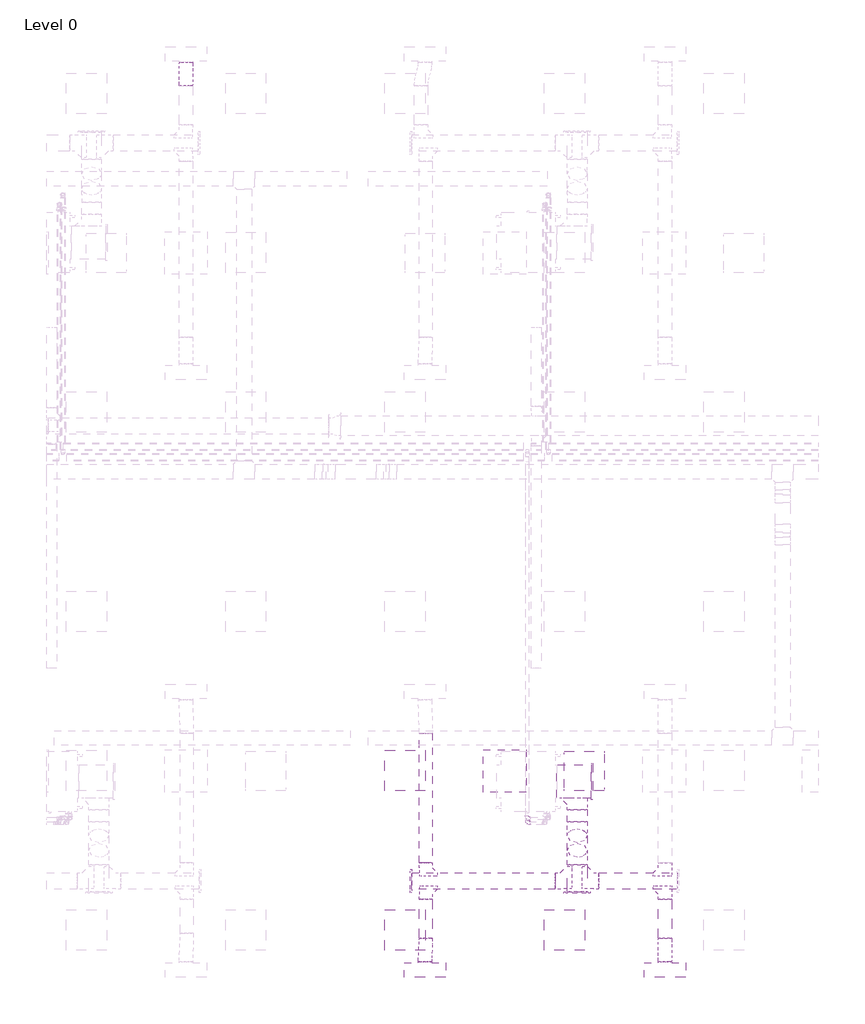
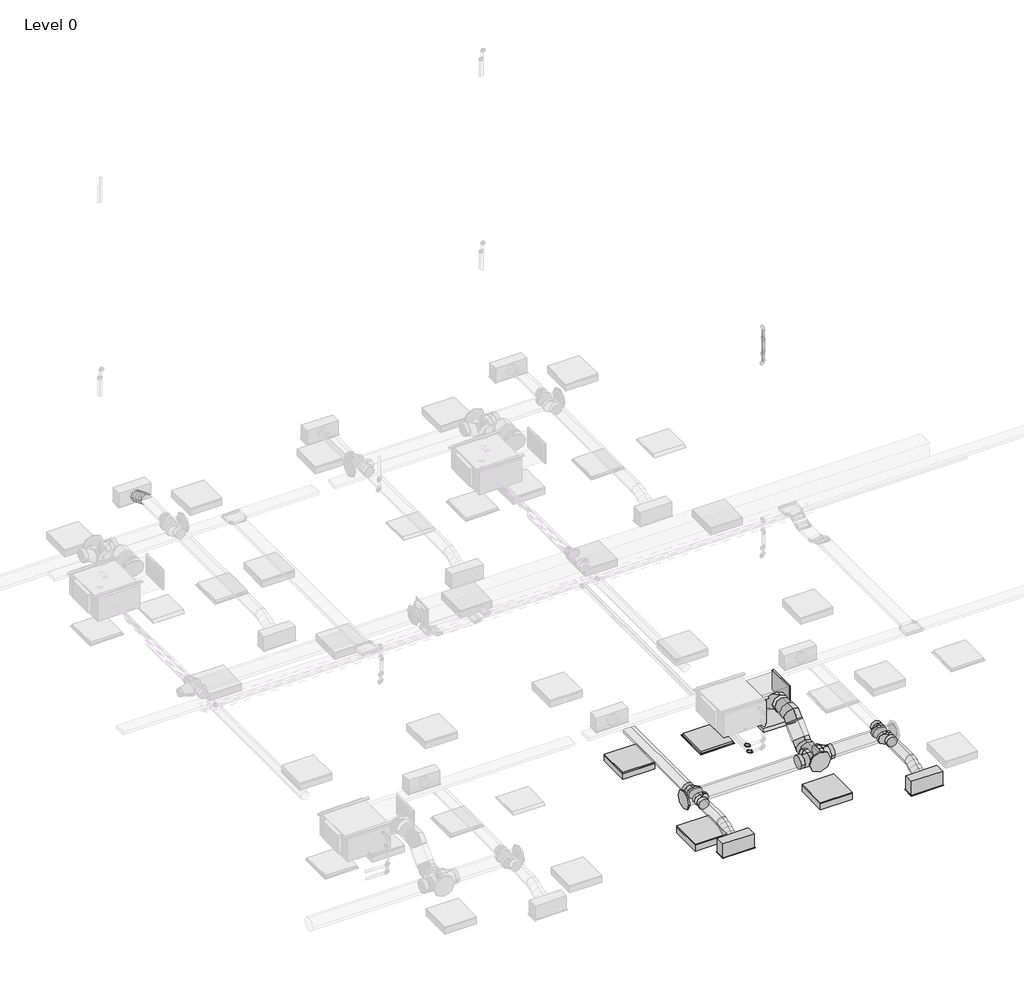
# One storey, part 8 of 34: 12 duct fittings, 12 duct segments, 4 light fixtures, 3 air terminals, 2 pipe fittings, 1 pipe segment.
"""IFC4 building model written with IfcOpenShell, lengths in millimetres."""

from ifc_helpers import new_model, si_unit, point, frame, frame_2d, origin, place, context, project, spatial, polyline, circle_curve, ellipse_curve, trimmed, segment, composite_curve, outline, extrude, transform, mapped, element, save
from ifc_brep_helpers import plane_surface, cylinder_surface, advanced_brep
from components import return_grille_rectangular_hosted_standard_7b12617c, supply_diffuser_with_plenum_linear_slot_hosted_8c379eed, dw144_rectangular_blank_end_standard_8fde7d16, dw144_round_blank_end_standard_f82b0856, dw144_round_blank_end_standard_9aa061e7, dw144_round_segmented_bend_slip_joint_standard_8b80c5ae, dw144_round_shoe_branch_slip_joint1_standard_2_15a2edd8, dw144_round_shoe_branch_slip_joint1_standard_2_559552f4, dw144_round_shoe_branch_slip_joint1_standard_2_7ba9e4ed, dw144_round_shoe_branch_slip_joint1_standard_2_67b64720, light_fixture_b730b5ca, troffer_light_2x2_parabolic_2_x2_2_lamp_120v_6a063ff3, elbow_threaded_gmi_standard_b4aa7741

model = new_model("IFC4")

# Units and contexts
model_context = context("Model", 3, world=origin())
ifc_project = project(units=[si_unit("LENGTHUNIT", "METRE", prefix="MILLI")], contexts=[model_context])

# Site, building, storey
site = spatial("IfcSite", under=ifc_project)
building = spatial("IfcBuilding", under=site)
storey = spatial("IfcBuildingStorey", under=building, Name="Level 0", Elevation=0.0)

# Air terminals
placement = place(None, origin())
return_grille_rectangular_hosted_standard_shape = return_grille_rectangular_hosted_standard_7b12617c(model_context)
element("IfcAirTerminal", 1, ObjectType="Return Grille - Rectangular - Hosted : Standard", at=placement, inside=storey, context=model_context, shape_type="MappedRepresentation", body=[
    mapped(return_grille_rectangular_hosted_standard_shape, transform((17562.2000027, 3963.2000004, 2800.0), x_axis=(1.0, 0.0, 0.0), y_axis=(0.0, -1.0, 0.0), z_axis=(0.0, 0.0, -1.0))),
])
supply_diffuser_with_plenum_linear_slot_hosted_shape = supply_diffuser_with_plenum_linear_slot_hosted_8c379eed(model_context)
element("IfcAirTerminal", 2, ObjectType="Supply Diffuser with Plenum - Linear Slot - Hosted : 24\" x 8\"-200 In Inlet  4-Slot", at=placement, inside=storey, context=model_context, shape_type="MappedRepresentation", body=[
    mapped(supply_diffuser_with_plenum_linear_slot_hosted_shape, transform((16362.2000027, 963.2000004, 2800.0), x_axis=(1.0, 0.0, 0.0), y_axis=(0.0, -1.0, 0.0), z_axis=(0.0, 0.0, -1.0))),
])
element("IfcAirTerminal", 3, ObjectType="Supply Diffuser with Plenum - Linear Slot - Hosted : 24\" x 8\"-200 In Inlet  4-Slot", at=placement, inside=storey, context=model_context, shape_type="MappedRepresentation", body=[
    mapped(supply_diffuser_with_plenum_linear_slot_hosted_shape, transform((19973.9000022, 963.2000004, 2800.0), x_axis=(1.0, 0.0, 0.0), y_axis=(0.0, -1.0, 0.0), z_axis=(0.0, 0.0, -1.0))),
])

# Duct fittings
dw144_rectangular_blank_end_standard_shape = dw144_rectangular_blank_end_standard_8fde7d16(model_context)
element("IfcDuctFitting", 4, ObjectType="DW144 Rectangular Blank End : Standard", at=placement, inside=storey, context=model_context, shape_type="MappedRepresentation", body=[
    mapped(dw144_rectangular_blank_end_standard_shape, transform((18866.2561025, 3806.0000004, 3476.3911538), x_axis=(1.0, 0.0, 0.0), y_axis=(0.0, 1.0, 0.0), z_axis=(0.0, 0.0, 1.0))),
])
dw144_round_blank_end_standard_shape = dw144_round_blank_end_standard_f82b0856(model_context)
element("IfcDuctFitting", 5, ObjectType="DW144 Round Blank End : Standard", at=placement, inside=storey, context=model_context, shape_type="MappedRepresentation", body=[
    mapped(dw144_round_blank_end_standard_shape, transform((18651.4561025, 2142.9916128, 3072.2088531), x_axis=(0.0, -1.0, 0.0), y_axis=(1.0, 0.0, 0.0), z_axis=(0.0, 0.0, 1.0))),
])
dw144_round_blank_end_standard_2_shape = dw144_round_blank_end_standard_9aa061e7(model_context)
element("IfcDuctFitting", 6, ObjectType="DW144 Round Blank End : Standard", at=placement, inside=storey, context=model_context, shape_type="MappedRepresentation", body=[
    mapped(dw144_round_blank_end_standard_2_shape, transform((16161.4561025, 2306.5018192, 3072.2088531), x_axis=(-1.0, 0.0, 0.0), y_axis=(0.0, -1.0, 0.0), z_axis=(0.0, 0.0, 1.0))),
])
dw144_round_segmented_bend_slip_joint_standard_shape = dw144_round_segmented_bend_slip_joint_standard_8b80c5ae(model_context)
element("IfcDuctFitting", 7, ObjectType="DW144 Round Segmented Bend - Slip Joint : Standard", at=placement, inside=storey, context=model_context, shape_type="MappedRepresentation", body=[
    mapped(dw144_round_segmented_bend_slip_joint_standard_shape, transform((18651.4561025, 2678.6338536, 3072.2088531), x_axis=(0.0, -0.7071067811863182, -0.7071067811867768), y_axis=(0.0, 0.7071067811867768, -0.7071067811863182), z_axis=(1.0, 0.0, 0.0))),
])
element("IfcDuctFitting", 8, ObjectType="DW144 Round Segmented Bend - Slip Joint : Standard", at=placement, inside=storey, context=model_context, shape_type="MappedRepresentation", body=[
    mapped(dw144_round_segmented_bend_slip_joint_standard_shape, transform((18651.4561025, 3076.0000004, 3469.575), x_axis=(0.0, -1.0, 0.0), y_axis=(0.0, 0.0, 1.0), z_axis=(-1.0, 0.0, 0.0))),
])
dw144_round_shoe_branch_slip_joint1_standard_2_shape = dw144_round_shoe_branch_slip_joint1_standard_2_15a2edd8(model_context)
element("IfcDuctFitting", 9, ObjectType="DW144 Round Shoe Branch - Slip Joint1 : Standard 2", at=placement, inside=storey, context=model_context, shape_type="MappedRepresentation", body=[
    mapped(dw144_round_shoe_branch_slip_joint1_standard_2_shape, transform((16373.9000022, 2181.5018192, 3072.2088531), x_axis=(0.0, -1.0, 0.0), y_axis=(-1.0, 0.0, 0.0), z_axis=(0.0, 0.0, -1.0))),
])
element("IfcDuctFitting", 10, ObjectType="DW144 Round Shoe Branch - Slip Joint1 : Standard 2", at=placement, inside=storey, context=model_context, shape_type="MappedRepresentation", body=[
    mapped(dw144_round_shoe_branch_slip_joint1_standard_2_shape, transform((16373.9000022, 2431.5018192, 3072.2088531), x_axis=(0.0, 1.0, 0.0), y_axis=(-1.0, 0.0, 0.0), z_axis=(0.0, 0.0, 1.0))),
])
dw144_round_shoe_branch_slip_joint1_standard_2_2_shape = dw144_round_shoe_branch_slip_joint1_standard_2_559552f4(model_context)
element("IfcDuctFitting", 11, ObjectType="DW144 Round Shoe Branch - Slip Joint1 : Standard 2", at=placement, inside=storey, context=model_context, shape_type="MappedRepresentation", body=[
    mapped(dw144_round_shoe_branch_slip_joint1_standard_2_2_shape, transform((19973.9000022, 2181.5018192, 3072.2088531), x_axis=(0.0, -1.0, 0.0), y_axis=(-1.0, 0.0, 0.0), z_axis=(0.0, 0.0, -1.0))),
])
element("IfcDuctFitting", 12, ObjectType="DW144 Round Shoe Branch - Slip Joint1 : Standard 2", at=placement, inside=storey, context=model_context, shape_type="MappedRepresentation", body=[
    mapped(dw144_round_shoe_branch_slip_joint1_standard_2_2_shape, transform((19973.9000022, 2431.5018192, 3072.2088531), x_axis=(0.0, 1.0, 0.0), y_axis=(-1.0, 0.0, 0.0), z_axis=(0.0, 0.0, 1.0))),
])
dw144_round_shoe_branch_slip_joint1_standard_2_3_shape = dw144_round_shoe_branch_slip_joint1_standard_2_7ba9e4ed(model_context)
element("IfcDuctFitting", 13, ObjectType="DW144 Round Shoe Branch - Slip Joint1 : Standard 2", at=placement, inside=storey, context=model_context, shape_type="MappedRepresentation", body=[
    mapped(dw144_round_shoe_branch_slip_joint1_standard_2_3_shape, transform((18651.4561025, 3556.0000004, 3469.575), x_axis=(0.0, -1.0, 0.0), y_axis=(-1.0, 0.0, 0.0), z_axis=(0.0, 0.0, -1.0))),
])
dw144_round_shoe_branch_slip_joint1_standard_2_4_shape = dw144_round_shoe_branch_slip_joint1_standard_2_67b64720(model_context)
element("IfcDuctFitting", 14, ObjectType="DW144 Round Shoe Branch - Slip Joint1 : Standard 2", at=placement, inside=storey, context=model_context, shape_type="MappedRepresentation", body=[
    mapped(dw144_round_shoe_branch_slip_joint1_standard_2_4_shape, transform((18801.4561025, 2306.5018192, 3072.2088531), x_axis=(1.0, 0.0, 0.0), y_axis=(0.0, -1.0, 0.0), z_axis=(0.0, 0.0, -1.0))),
])
element("IfcDuctFitting", 15, ObjectType="DW144 Round Shoe Branch - Slip Joint1 : Standard 2", at=placement, inside=storey, context=model_context, shape_type="MappedRepresentation", body=[
    mapped(dw144_round_shoe_branch_slip_joint1_standard_2_4_shape, transform((18501.4561025, 2306.5018192, 3072.2088531), x_axis=(-1.0, 0.0, 0.0), y_axis=(0.0, -1.0, 0.0), z_axis=(0.0, 0.0, 1.0))),
])

# Duct segments
element("IfcDuctSegment", 16, ObjectType="DW144 Flanged Med Radius Bend / Shoe Branch", at=placement, inside=storey, context=model_context, shape_type="SweptSolid", body=[
    extrude(outline(polyline([(18346.6561025, 3556.0000004), (18346.6561025, 4056.0000004), (18866.2561025, 4056.0000004), (18866.2561025, 3556.0000004), (18346.6561025, 3556.0000004)])), frame((0.0, 0.0, 3301.3911538), z_axis=(0.0, 0.0, 1.0), x_axis=(1.0, 0.0, 0.0)), (0.0, 0.0, 1.0), 350.0),
])
element("IfcDuctSegment", 17, ObjectType="DW144 Segmented Bend / Shoe Branch", at=placement, inside=storey, context=model_context, shape_type="SweptSolid", body=[
    extrude(outline(composite_curve([segment(trimmed(circle_curve(frame_2d((3469.575, 18651.4561025)), 150.0), [point((3469.575, 18501.4561025))], [point((3319.575, 18651.4561025))], False, "CARTESIAN"), True, "CONTINUOUS"), segment(trimmed(circle_curve(frame_2d((3469.575, 18651.4561025)), 150.0), [point((3319.575, 18651.4561025))], [point((3469.575, 18801.4561025))], False, "CARTESIAN"), True, "CONTINUOUS"), segment(trimmed(circle_curve(frame_2d((3469.575, 18651.4561025)), 150.0), [point((3469.575, 18801.4561025))], [point((3619.575, 18651.4561025))], False, "CARTESIAN"), True, "CONTINUOUS"), segment(trimmed(circle_curve(frame_2d((3469.575, 18651.4561025)), 150.0), [point((3619.575, 18651.4561025))], [point((3469.575, 18501.4561025))], False, "CARTESIAN"), True, "CONTINUOUS")], self_intersect=False)), frame((0.0, 3200.2640691, 0.0), z_axis=(0.0, 1.0, 0.0), x_axis=(0.0, 0.0, 1.0)), (0.0, 0.0, 1.0), 180.7359313),
])
element("IfcDuctSegment", 18, ObjectType="DW144 Segmented Bend / Shoe Branch", at=placement, inside=storey, context=model_context, shape_type="SweptSolid", body=[
    extrude(outline(composite_curve([segment(trimmed(circle_curve(frame_2d((3072.2088531, 18651.4561025)), 150.0), [point((3072.2088531, 18501.4561025))], [point((2922.2088531, 18651.4561025))], False, "CARTESIAN"), True, "CONTINUOUS"), segment(trimmed(circle_curve(frame_2d((3072.2088531, 18651.4561025)), 150.0), [point((2922.2088531, 18651.4561025))], [point((3072.2088531, 18801.4561025))], False, "CARTESIAN"), True, "CONTINUOUS"), segment(trimmed(circle_curve(frame_2d((3072.2088531, 18651.4561025)), 150.0), [point((3072.2088531, 18801.4561025))], [point((3222.2088531, 18651.4561025))], False, "CARTESIAN"), True, "CONTINUOUS"), segment(trimmed(circle_curve(frame_2d((3072.2088531, 18651.4561025)), 150.0), [point((3222.2088531, 18651.4561025))], [point((3072.2088531, 18501.4561025))], False, "CARTESIAN"), True, "CONTINUOUS")], self_intersect=False)), frame((0.0, 2142.9916128, 0.0), z_axis=(0.0, 1.0, 0.0), x_axis=(0.0, 0.0, 1.0)), (0.0, 0.0, 1.0), 411.3781721),
])
element("IfcDuctSegment", 19, ObjectType="DW144 Segmented Bend / Shoe Branch", at=placement, inside=storey, context=model_context, shape_type="SweptSolid", body=[
    extrude(outline(composite_curve([segment(trimmed(circle_curve(frame_2d((0.0, -150.0)), 150.0), [point((-150.0, -150.0))], [point((0.0, 0.0))], False, "CARTESIAN"), True, "CONTINUOUS"), segment(trimmed(circle_curve(frame_2d((0.0, -150.0)), 150.0), [point((0.0, 0.0))], [point((150.0, -150.0))], False, "CARTESIAN"), True, "CONTINUOUS"), segment(trimmed(circle_curve(frame_2d((0.0, -150.0)), 150.0), [point((150.0, -150.0))], [point((0.0, -300.0))], False, "CARTESIAN"), True, "CONTINUOUS"), segment(trimmed(circle_curve(frame_2d((0.0, -150.0)), 150.0), [point((0.0, -300.0))], [point((-150.0, -150.0))], False, "CARTESIAN"), True, "CONTINUOUS")], self_intersect=False)), frame((18651.4561025, 2872.5678364, 3054.0108016), z_axis=(0.0, 0.7071067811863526, 0.7071067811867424), x_axis=(1.0, 0.0, 0.0)), (0.0, 0.0, 1.0), 313.4324567),
])
element("IfcDuctSegment", 20, ObjectType="DW144 Segmented Bend / Shoe Branch", at=placement, inside=storey, context=model_context, shape_type="SweptSolid", body=[
    extrude(outline(composite_curve([segment(trimmed(circle_curve(frame_2d((2306.5018192, 3072.2088531)), 125.0), [point((2181.5018192, 3072.2088531))], [point((2306.5018192, 3197.2088531))], False, "CARTESIAN"), True, "CONTINUOUS"), segment(trimmed(circle_curve(frame_2d((2306.5018192, 3072.2088531)), 125.0), [point((2306.5018192, 3197.2088531))], [point((2431.5018192, 3072.2088531))], False, "CARTESIAN"), True, "CONTINUOUS"), segment(trimmed(circle_curve(frame_2d((2306.5018192, 3072.2088531)), 125.0), [point((2431.5018192, 3072.2088531))], [point((2306.5018192, 2947.2088531))], False, "CARTESIAN"), True, "CONTINUOUS"), segment(trimmed(circle_curve(frame_2d((2306.5018192, 3072.2088531)), 125.0), [point((2306.5018192, 2947.2088531))], [point((2181.5018192, 3072.2088531))], False, "CARTESIAN"), True, "CONTINUOUS")], self_intersect=False)), frame((18976.4561025, 0.0, 0.0), z_axis=(1.0, 0.0, 0.0), x_axis=(0.0, 1.0, 0.0)), (0.0, 0.0, 1.0), 1185.0),
])
element("IfcDuctSegment", 21, ObjectType="DW144 Segmented Bend / Shoe Branch", at=placement, inside=storey, context=model_context, shape_type="SweptSolid", body=[
    extrude(outline(composite_curve([segment(trimmed(circle_curve(frame_2d((2306.5018192, 3072.2088531)), 125.0), [point((2431.5018192, 3072.2088531))], [point((2306.5018192, 2947.2088531))], False, "CARTESIAN"), True, "CONTINUOUS"), segment(trimmed(circle_curve(frame_2d((2306.5018192, 3072.2088531)), 125.0), [point((2306.5018192, 2947.2088531))], [point((2181.5018192, 3072.2088531))], False, "CARTESIAN"), True, "CONTINUOUS"), segment(trimmed(circle_curve(frame_2d((2306.5018192, 3072.2088531)), 125.0), [point((2181.5018192, 3072.2088531))], [point((2306.5018192, 3197.2088531))], False, "CARTESIAN"), True, "CONTINUOUS"), segment(trimmed(circle_curve(frame_2d((2306.5018192, 3072.2088531)), 125.0), [point((2306.5018192, 3197.2088531))], [point((2431.5018192, 3072.2088531))], False, "CARTESIAN"), True, "CONTINUOUS")], self_intersect=False)), frame((16161.4561025, 0.0, 0.0), z_axis=(1.0, 0.0, 0.0), x_axis=(0.0, 1.0, 0.0)), (0.0, 0.0, 1.0), 2165.0),
])
element("IfcDuctSegment", 22, ObjectType="DW144 Segmented Bend / Shoe Branch", at=placement, inside=storey, context=model_context, shape_type="SweptSolid", body=[
    extrude(outline(composite_curve([segment(trimmed(circle_curve(frame_2d((3072.2088531, 19973.9000022)), 100.0), [point((3072.2088531, 19873.9000022))], [point((2972.2088531, 19973.9000022))], False, "CARTESIAN"), True, "CONTINUOUS"), segment(trimmed(circle_curve(frame_2d((3072.2088531, 19973.9000022)), 100.0), [point((2972.2088531, 19973.9000022))], [point((3072.2088531, 20073.9000022))], False, "CARTESIAN"), True, "CONTINUOUS"), segment(trimmed(circle_curve(frame_2d((3072.2088531, 19973.9000022)), 100.0), [point((3072.2088531, 20073.9000022))], [point((3172.2088531, 19973.9000022))], False, "CARTESIAN"), True, "CONTINUOUS"), segment(trimmed(circle_curve(frame_2d((3072.2088531, 19973.9000022)), 100.0), [point((3172.2088531, 19973.9000022))], [point((3072.2088531, 19873.9000022))], False, "CARTESIAN"), True, "CONTINUOUS")], self_intersect=False)), frame((0.0, 1441.5018192, 0.0), z_axis=(0.0, 1.0, 0.0), x_axis=(0.0, 0.0, 1.0)), (0.0, 0.0, 1.0), 590.0),
])
element("IfcDuctSegment", 23, ObjectType="DW144 Segmented Bend / Shoe Branch", at=placement, inside=storey, context=model_context, shape_type="SweptSolid", body=[
    extrude(outline(composite_curve([segment(trimmed(circle_curve(frame_2d((3072.2088531, 16373.9000022)), 100.0), [point((3072.2088531, 16473.9000022))], [point((3172.2088531, 16373.9000022))], False, "CARTESIAN"), True, "CONTINUOUS"), segment(trimmed(circle_curve(frame_2d((3072.2088531, 16373.9000022)), 100.0), [point((3172.2088531, 16373.9000022))], [point((3072.2088531, 16273.9000022))], False, "CARTESIAN"), True, "CONTINUOUS"), segment(trimmed(circle_curve(frame_2d((3072.2088531, 16373.9000022)), 100.0), [point((3072.2088531, 16273.9000022))], [point((2972.2088531, 16373.9000022))], False, "CARTESIAN"), True, "CONTINUOUS"), segment(trimmed(circle_curve(frame_2d((3072.2088531, 16373.9000022)), 100.0), [point((2972.2088531, 16373.9000022))], [point((3072.2088531, 16473.9000022))], False, "CARTESIAN"), True, "CONTINUOUS")], self_intersect=False)), frame((0.0, 1441.5018192, 0.0), z_axis=(0.0, 1.0, 0.0), x_axis=(0.0, 0.0, 1.0)), (0.0, 0.0, 1.0), 590.0),
])
element("IfcDuctSegment", 24, ObjectType="DW144 Segmented Bend / Shoe Branch", at=placement, inside=storey, context=model_context, shape_type="SweptSolid", body=[
    extrude(outline(composite_curve([segment(trimmed(circle_curve(frame_2d((3072.2088531, 16373.9000022)), 100.0), [point((3072.2088531, 16473.9000022))], [point((3172.2088531, 16373.9000022))], False, "CARTESIAN"), True, "CONTINUOUS"), segment(trimmed(circle_curve(frame_2d((3072.2088531, 16373.9000022)), 100.0), [point((3172.2088531, 16373.9000022))], [point((3072.2088531, 16273.9000022))], False, "CARTESIAN"), True, "CONTINUOUS"), segment(trimmed(circle_curve(frame_2d((3072.2088531, 16373.9000022)), 100.0), [point((3072.2088531, 16273.9000022))], [point((2972.2088531, 16373.9000022))], False, "CARTESIAN"), True, "CONTINUOUS"), segment(trimmed(circle_curve(frame_2d((3072.2088531, 16373.9000022)), 100.0), [point((2972.2088531, 16373.9000022))], [point((3072.2088531, 16473.9000022))], False, "CARTESIAN"), True, "CONTINUOUS")], self_intersect=False)), frame((0.0, 2581.5018192, 0.0), z_axis=(0.0, 1.0, 0.0), x_axis=(0.0, 0.0, 1.0)), (0.0, 0.0, 1.0), 1950.0),
])
element("IfcDuctSegment", 25, ObjectType="Flex - Round", at=placement, inside=storey, context=model_context, shape_type="AdvancedBrep", body=[
    advanced_brep(
    [(12662.2000027, 14284.8981817, 3072.2088531), (12762.2000027, 14284.8981817, 2972.2088531), (12862.2000027, 14284.8981817, 3072.2088531), (12762.2000027, 14284.8981817, 3172.2088531), (12662.2000027, 14305.1168804, 3072.2088531), (12762.2000027, 14291.9969011, 2972.2088531), (12862.2000027, 14305.1168804, 3072.2088531), (12762.2000027, 14318.2368598, 3172.2088531), (12662.2000027, 14634.3000004, 2954.4), (12762.2000027, 14634.3000004, 3054.4), (12862.2000027, 14634.3000004, 2954.4), (12762.2000027, 14634.3000004, 2854.4), (12662.2000027, 14374.0604937, 3053.8012198), (12762.2000027, 14339.4842635, 2959.5299419), (12862.2000027, 14374.0604937, 3053.8012198), (12762.2000027, 14408.6367238, 3148.0724978), (12662.2000027, 14459.599091, 3013.3044266), (12762.2000027, 14416.809003, 2922.9218599), (12862.2000027, 14459.599091, 3013.3044266), (12762.2000027, 14502.3891791, 3103.6869932), (12662.2000027, 14545.1376884, 2972.8076333), (12762.2000027, 14510.5614583, 2878.5363553), (12862.2000027, 14545.1376884, 2972.8076333), (12762.2000027, 14579.7139186, 3067.0789113), (12662.2000027, 14614.0813017, 2954.4), (12762.2000027, 14600.9613223, 2854.4), (12862.2000027, 14614.0813017, 2954.4), (12762.2000027, 14627.201281, 3054.4)],
    [
        (0, 1, circle_curve(frame((12762.2000027, 14284.8981817, 3072.2088531), z_axis=(0.0, -1.0, 0.0), x_axis=(-1.0, 0.0, 0.0)), 100.0)),
        (1, 2, circle_curve(frame((12762.2000027, 14284.8981817, 3072.2088531), z_axis=(0.0, -1.0, 0.0), x_axis=(-1.0, 0.0, 0.0)), 100.0)),
        (2, 3, circle_curve(frame((12762.2000027, 14284.8981817, 3072.2088531), z_axis=(0.0, -1.0, 0.0), x_axis=(-1.0, 0.0, 0.0)), 100.0)),
        (3, 0, circle_curve(frame((12762.2000027, 14284.8981817, 3072.2088531), z_axis=(0.0, -1.0, 0.0), x_axis=(-1.0, 0.0, 0.0)), 100.0)),
        (0, 4),
        (4, 5, ellipse_curve(frame((12762.2000027, 14305.1168804, 3072.2088531), z_axis=(0.0, -0.9915028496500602, 0.1300849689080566), x_axis=(0.0, -0.13008496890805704, -0.9915028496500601)), 100.8569971, 100.0)),
        (5, 1),
        (5, 6, ellipse_curve(frame((12762.2000027, 14305.1168804, 3072.2088531), z_axis=(0.0, -0.9915028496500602, 0.1300849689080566), x_axis=(0.0, -0.13008496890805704, -0.9915028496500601)), 100.8569971, 100.0)),
        (6, 2),
        (6, 7, ellipse_curve(frame((12762.2000027, 14305.1168804, 3072.2088531), z_axis=(0.0, -0.9915028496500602, 0.1300849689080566), x_axis=(0.0, -0.13008496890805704, -0.9915028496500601)), 100.8569971, 100.0)),
        (7, 3),
        (7, 4, ellipse_curve(frame((12762.2000027, 14305.1168804, 3072.2088531), z_axis=(0.0, -0.9915028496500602, 0.1300849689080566), x_axis=(0.0, -0.13008496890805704, -0.9915028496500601)), 100.8569971, 100.0)),
        (8, 9, circle_curve(frame((12762.2000027, 14634.3000004, 2954.4), z_axis=(0.0, 1.0, 0.0), x_axis=(-1.0, 0.0, 0.0)), 100.0)),
        (9, 10, circle_curve(frame((12762.2000027, 14634.3000004, 2954.4), z_axis=(0.0, 1.0, 0.0), x_axis=(-1.0, 0.0, 0.0)), 100.0)),
        (10, 11, circle_curve(frame((12762.2000027, 14634.3000004, 2954.4), z_axis=(0.0, 1.0, 0.0), x_axis=(-1.0, 0.0, 0.0)), 100.0)),
        (11, 8, circle_curve(frame((12762.2000027, 14634.3000004, 2954.4), z_axis=(0.0, 1.0, 0.0), x_axis=(-1.0, 0.0, 0.0)), 100.0)),
        (4, 12),
        (12, 13, ellipse_curve(frame((12762.2000027, 14374.0604937, 3053.8012198), z_axis=(0.0, -0.9388438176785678, 0.3443432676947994), x_axis=(0.0, -0.3443432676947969, -0.9388438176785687)), 100.4120986, 100.0)),
        (13, 5),
        (13, 14, ellipse_curve(frame((12762.2000027, 14374.0604937, 3053.8012198), z_axis=(0.0, -0.9388438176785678, 0.3443432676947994), x_axis=(0.0, -0.3443432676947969, -0.9388438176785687)), 100.4120986, 100.0)),
        (14, 6),
        (14, 15, ellipse_curve(frame((12762.2000027, 14374.0604937, 3053.8012198), z_axis=(0.0, -0.9388438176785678, 0.3443432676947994), x_axis=(0.0, -0.3443432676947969, -0.9388438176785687)), 100.4120986, 100.0)),
        (15, 7),
        (15, 12, ellipse_curve(frame((12762.2000027, 14374.0604937, 3053.8012198), z_axis=(0.0, -0.9388438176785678, 0.3443432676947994), x_axis=(0.0, -0.3443432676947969, -0.9388438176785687)), 100.4120986, 100.0)),
        (12, 16),
        (16, 17, circle_curve(frame((12762.2000027, 14459.599091, 3013.3044266), z_axis=(0.0, -0.9038256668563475, 0.42790088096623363), x_axis=(-1.0, 0.0, 0.0)), 100.0)),
        (17, 13),
        (17, 18, circle_curve(frame((12762.2000027, 14459.599091, 3013.3044266), z_axis=(0.0, -0.9038256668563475, 0.42790088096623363), x_axis=(-1.0, 0.0, 0.0)), 100.0)),
        (18, 14),
        (18, 19, circle_curve(frame((12762.2000027, 14459.599091, 3013.3044266), z_axis=(0.0, -0.9038256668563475, 0.42790088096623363), x_axis=(-1.0, 0.0, 0.0)), 100.0)),
        (19, 15),
        (19, 16, circle_curve(frame((12762.2000027, 14459.599091, 3013.3044266), z_axis=(0.0, -0.9038256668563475, 0.42790088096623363), x_axis=(-1.0, 0.0, 0.0)), 100.0)),
        (16, 20),
        (20, 21, ellipse_curve(frame((12762.2000027, 14545.1376884, 2972.8076333), z_axis=(0.0, -0.93884381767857, 0.3443432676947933), x_axis=(0.0, 0.34434326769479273, 0.9388438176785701)), 100.4120986, 100.0)),
        (21, 17),
        (21, 22, ellipse_curve(frame((12762.2000027, 14545.1376884, 2972.8076333), z_axis=(0.0, -0.93884381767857, 0.3443432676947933), x_axis=(0.0, 0.34434326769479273, 0.9388438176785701)), 100.4120986, 100.0)),
        (22, 18),
        (22, 23, ellipse_curve(frame((12762.2000027, 14545.1376884, 2972.8076333), z_axis=(0.0, -0.93884381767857, 0.3443432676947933), x_axis=(0.0, 0.34434326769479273, 0.9388438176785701)), 100.4120986, 100.0)),
        (23, 19),
        (23, 20, ellipse_curve(frame((12762.2000027, 14545.1376884, 2972.8076333), z_axis=(0.0, -0.93884381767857, 0.3443432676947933), x_axis=(0.0, 0.34434326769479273, 0.9388438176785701)), 100.4120986, 100.0)),
        (20, 24),
        (24, 25, ellipse_curve(frame((12762.2000027, 14614.0813017, 2954.4), z_axis=(0.0, -0.9915028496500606, 0.13008496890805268), x_axis=(0.0, 0.13008496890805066, 0.991502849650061)), 100.8569971, 100.0)),
        (25, 21),
        (25, 26, ellipse_curve(frame((12762.2000027, 14614.0813017, 2954.4), z_axis=(0.0, -0.9915028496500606, 0.13008496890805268), x_axis=(0.0, 0.13008496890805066, 0.991502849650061)), 100.8569971, 100.0)),
        (26, 22),
        (26, 27, ellipse_curve(frame((12762.2000027, 14614.0813017, 2954.4), z_axis=(0.0, -0.9915028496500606, 0.13008496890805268), x_axis=(0.0, 0.13008496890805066, 0.991502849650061)), 100.8569971, 100.0)),
        (27, 23),
        (27, 24, ellipse_curve(frame((12762.2000027, 14614.0813017, 2954.4), z_axis=(0.0, -0.9915028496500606, 0.13008496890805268), x_axis=(0.0, 0.13008496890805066, 0.991502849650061)), 100.8569971, 100.0)),
        (24, 8),
        (11, 25),
        (10, 26),
        (9, 27),
    ],
    [
        plane_surface(frame((12662.2000027, 14284.8981817, 3072.2088531), z_axis=(0.0, -1.0, 0.0), x_axis=(0.0, 0.0, 1.0))),
        cylinder_surface(frame((12762.2000027, 14284.8981817, 3072.2088531), z_axis=(0.0, -1.0, 0.0), x_axis=(-1.0, 0.0, 0.0)), 100.0),
        plane_surface(frame((12662.2000027, 14634.3000004, 2954.4), z_axis=(0.0, 1.0, 0.0), x_axis=(0.0, 0.0, 1.0))),
        cylinder_surface(frame((12762.2000027, 14305.1168804, 3072.2088531), z_axis=(0.0, -0.9661558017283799, 0.2579592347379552), x_axis=(-1.0, 0.0, 0.0)), 100.0),
        cylinder_surface(frame((12762.2000027, 14374.0604937, 3053.8012198), z_axis=(0.0, -0.9038256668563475, 0.42790088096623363), x_axis=(-1.0, 0.0, 0.0)), 100.0),
        cylinder_surface(frame((12762.2000027, 14459.599091, 3013.3044266), z_axis=(0.0, -0.9038256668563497, 0.427900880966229), x_axis=(-1.0, 0.0, 0.0)), 100.0),
        cylinder_surface(frame((12762.2000027, 14545.1376884, 2972.8076333), z_axis=(0.0, -0.966155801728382, 0.25795923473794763), x_axis=(-1.0, 0.0, 0.0)), 100.0),
        cylinder_surface(frame((12762.2000027, 14614.0813017, 2954.4), z_axis=(0.0, -1.0, 0.0), x_axis=(-1.0, 0.0, 0.0)), 100.0),
    ],
    [
        (0, [[1, 2, 3, 4]]),
        (1, [[-1, 5, 6, 7]]),
        (1, [[-2, -7, 8, 9]]),
        (1, [[-3, -9, 10, 11]]),
        (1, [[-4, -11, 12, -5]]),
        (2, [[13, 14, 15, 16]]),
        (3, [[-6, 17, 18, 19]]),
        (3, [[-8, -19, 20, 21]]),
        (3, [[-10, -21, 22, 23]]),
        (3, [[-12, -23, 24, -17]]),
        (4, [[-18, 25, 26, 27]]),
        (4, [[-20, -27, 28, 29]]),
        (4, [[-22, -29, 30, 31]]),
        (4, [[-24, -31, 32, -25]]),
        (5, [[-26, 33, 34, 35]]),
        (5, [[-28, -35, 36, 37]]),
        (5, [[-30, -37, 38, 39]]),
        (5, [[-32, -39, 40, -33]]),
        (6, [[-34, 41, 42, 43]]),
        (6, [[-36, -43, 44, 45]]),
        (6, [[-38, -45, 46, 47]]),
        (6, [[-40, -47, 48, -41]]),
        (7, [[-42, 49, -16, 50]]),
        (7, [[-44, -50, -15, 51]]),
        (7, [[-46, -51, -14, 52]]),
        (7, [[-48, -52, -13, -49]]),
    ],
),
])
element("IfcDuctSegment", 26, ObjectType="Flex - Round", at=placement, inside=storey, context=model_context, shape_type="AdvancedBrep", body=[
    advanced_brep(
    [(16473.9000022, 1441.5018192, 3072.2088531), (16373.9000022, 1441.5018192, 2972.2088531), (16273.9000022, 1441.5018192, 3072.2088531), (16373.9000022, 1441.5018192, 3172.2088531), (16473.9000022, 1419.9886644, 3072.2088531), (16373.9000022, 1434.4041273, 2972.2088531), (16273.9000022, 1422.5932881, 3072.2088531), (16373.9000022, 1408.1778252, 3172.2088531), (16462.2000027, 1092.1000004, 2954.4), (16362.2000027, 1092.1000004, 3054.4), (16262.2000027, 1092.1000004, 2954.4), (16362.2000027, 1092.1000004, 2854.4), (16472.0154345, 1348.8904029, 3053.2328893), (16372.6402079, 1386.8764181, 2959.5238159), (16272.1283201, 1355.7538157, 3054.3695504), (16371.5035467, 1317.7678004, 3148.0786237), (16467.9552415, 1262.5544078, 3012.3502664), (16369.0041626, 1309.5595036, 2922.9119919), (16268.1447633, 1271.0474118, 3014.2585867), (16367.0958423, 1224.0423161, 3103.6968612), (16463.9716847, 1177.8480039, 2972.2393027), (16364.5964582, 1215.8340192, 2878.5302294), (16264.0845704, 1184.7114168, 2973.3759639), (16363.459797, 1146.7254015, 3067.0850372), (16462.2000027, 1111.0085316, 2954.4), (16362.2000027, 1125.4239944, 2854.4), (16262.2000027, 1113.6131552, 2954.4), (16362.2000027, 1099.1976924, 3054.4)],
    [
        (0, 1, circle_curve(frame((16373.9000022, 1441.5018192, 3072.2088531), z_axis=(0.0, 1.0, 0.0), x_axis=(1.0, 0.0, 0.0)), 100.0)),
        (1, 2, circle_curve(frame((16373.9000022, 1441.5018192, 3072.2088531), z_axis=(0.0, 1.0, 0.0), x_axis=(1.0, 0.0, 0.0)), 100.0)),
        (2, 3, circle_curve(frame((16373.9000022, 1441.5018192, 3072.2088531), z_axis=(0.0, 1.0, 0.0), x_axis=(1.0, 0.0, 0.0)), 100.0)),
        (3, 0, circle_curve(frame((16373.9000022, 1441.5018192, 3072.2088531), z_axis=(0.0, 1.0, 0.0), x_axis=(1.0, 0.0, 0.0)), 100.0)),
        (0, 4),
        (4, 5, ellipse_curve(frame((16373.9000022, 1421.2909763, 3072.2088531), z_axis=(0.012911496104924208, 0.9914289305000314, 0.1300075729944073), x_axis=(-0.09798018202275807, 0.130647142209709, -0.9865754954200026)), 100.8645168, 100.0)),
        (5, 1),
        (5, 6, ellipse_curve(frame((16373.9000022, 1421.2909763, 3072.2088531), z_axis=(0.012911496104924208, 0.9914289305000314, 0.1300075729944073), x_axis=(-0.09798018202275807, 0.130647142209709, -0.9865754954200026)), 100.8645168, 100.0)),
        (6, 2),
        (6, 7, ellipse_curve(frame((16373.9000022, 1421.2909763, 3072.2088531), z_axis=(0.012911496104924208, 0.9914289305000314, 0.1300075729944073), x_axis=(-0.09798018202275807, 0.130647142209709, -0.9865754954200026)), 100.8645168, 100.0)),
        (7, 3),
        (7, 4, ellipse_curve(frame((16373.9000022, 1421.2909763, 3072.2088531), z_axis=(0.012911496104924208, 0.9914289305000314, 0.1300075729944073), x_axis=(-0.09798018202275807, 0.130647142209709, -0.9865754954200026)), 100.8645168, 100.0)),
        (8, 9, circle_curve(frame((16362.2000027, 1092.1000004, 2954.4), z_axis=(0.0, -1.0, 0.0), x_axis=(1.0, 0.0, 0.0)), 100.0)),
        (9, 10, circle_curve(frame((16362.2000027, 1092.1000004, 2954.4), z_axis=(0.0, -1.0, 0.0), x_axis=(1.0, 0.0, 0.0)), 100.0)),
        (10, 11, circle_curve(frame((16362.2000027, 1092.1000004, 2954.4), z_axis=(0.0, -1.0, 0.0), x_axis=(1.0, 0.0, 0.0)), 100.0)),
        (11, 8, circle_curve(frame((16362.2000027, 1092.1000004, 2954.4), z_axis=(0.0, -1.0, 0.0), x_axis=(1.0, 0.0, 0.0)), 100.0)),
        (4, 12),
        (12, 13, ellipse_curve(frame((16372.0718773, 1352.3221093, 3053.8012198), z_axis=(0.03417490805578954, 0.9383065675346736, 0.3441116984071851), x_axis=(-0.09273024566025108, 0.34580454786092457, -0.933713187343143)), 100.4159667, 100.0)),
        (13, 5),
        (13, 14, ellipse_curve(frame((16372.0718773, 1352.3221093, 3053.8012198), z_axis=(0.03417490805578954, 0.9383065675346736, 0.3441116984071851), x_axis=(-0.09273024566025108, 0.34580454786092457, -0.933713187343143)), 100.4159667, 100.0)),
        (14, 6),
        (14, 15, ellipse_curve(frame((16372.0718773, 1352.3221093, 3053.8012198), z_axis=(0.03417490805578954, 0.9383065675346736, 0.3441116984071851), x_axis=(-0.09273024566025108, 0.34580454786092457, -0.933713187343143)), 100.4159667, 100.0)),
        (15, 7),
        (15, 12, ellipse_curve(frame((16372.0718773, 1352.3221093, 3053.8012198), z_axis=(0.03417490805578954, 0.9383065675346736, 0.3441116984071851), x_axis=(-0.09273024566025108, 0.34580454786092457, -0.933713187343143)), 100.4159667, 100.0)),
        (12, 16),
        (16, 17, circle_curve(frame((16368.0500024, 1266.8009098, 3013.3044266), z_axis=(0.04246501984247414, 0.9029767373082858, 0.42758593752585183), x_axis=(0.9990523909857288, -0.04246501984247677, -0.009541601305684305)), 100.0)),
        (17, 13),
        (17, 18, circle_curve(frame((16368.0500024, 1266.8009098, 3013.3044266), z_axis=(0.04246501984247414, 0.9029767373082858, 0.42758593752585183), x_axis=(0.9990523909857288, -0.04246501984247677, -0.009541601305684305)), 100.0)),
        (18, 14),
        (18, 19, circle_curve(frame((16368.0500024, 1266.8009098, 3013.3044266), z_axis=(0.04246501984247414, 0.9029767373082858, 0.42758593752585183), x_axis=(0.9990523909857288, -0.04246501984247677, -0.009541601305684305)), 100.0)),
        (19, 15),
        (19, 16, circle_curve(frame((16368.0500024, 1266.8009098, 3013.3044266), z_axis=(0.04246501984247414, 0.9029767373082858, 0.42758593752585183), x_axis=(0.9990523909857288, -0.04246501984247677, -0.009541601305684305)), 100.0)),
        (16, 20),
        (20, 21, ellipse_curve(frame((16364.0281276, 1181.2797104, 2972.8076333), z_axis=(0.034174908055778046, 0.9383065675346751, 0.3441116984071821), x_axis=(0.09273024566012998, -0.3458045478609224, 0.9337131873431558)), 100.4159667, 100.0)),
        (21, 17),
        (21, 22, ellipse_curve(frame((16364.0281276, 1181.2797104, 2972.8076333), z_axis=(0.034174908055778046, 0.9383065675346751, 0.3441116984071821), x_axis=(0.09273024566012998, -0.3458045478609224, 0.9337131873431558)), 100.4159667, 100.0)),
        (22, 18),
        (22, 23, ellipse_curve(frame((16364.0281276, 1181.2797104, 2972.8076333), z_axis=(0.034174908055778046, 0.9383065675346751, 0.3441116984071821), x_axis=(0.09273024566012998, -0.3458045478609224, 0.9337131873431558)), 100.4159667, 100.0)),
        (23, 19),
        (23, 20, ellipse_curve(frame((16364.0281276, 1181.2797104, 2972.8076333), z_axis=(0.034174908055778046, 0.9383065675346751, 0.3441116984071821), x_axis=(0.09273024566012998, -0.3458045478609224, 0.9337131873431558)), 100.4159667, 100.0)),
        (20, 24),
        (24, 25, ellipse_curve(frame((16362.2000027, 1112.3108434, 2954.4), z_axis=(0.012911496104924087, 0.9914289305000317, 0.13000757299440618), x_axis=(0.09798018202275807, -0.13064714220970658, 0.9865754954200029)), 100.8645168, 100.0)),
        (25, 21),
        (25, 26, ellipse_curve(frame((16362.2000027, 1112.3108434, 2954.4), z_axis=(0.012911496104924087, 0.9914289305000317, 0.13000757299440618), x_axis=(0.09798018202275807, -0.13064714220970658, 0.9865754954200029)), 100.8645168, 100.0)),
        (26, 22),
        (26, 27, ellipse_curve(frame((16362.2000027, 1112.3108434, 2954.4), z_axis=(0.012911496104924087, 0.9914289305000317, 0.13000757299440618), x_axis=(0.09798018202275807, -0.13064714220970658, 0.9865754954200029)), 100.8645168, 100.0)),
        (27, 23),
        (27, 24, ellipse_curve(frame((16362.2000027, 1112.3108434, 2954.4), z_axis=(0.012911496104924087, 0.9914289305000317, 0.13000757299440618), x_axis=(0.09798018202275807, -0.13064714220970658, 0.9865754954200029)), 100.8645168, 100.0)),
        (24, 8),
        (11, 25),
        (10, 26),
        (9, 27),
    ],
    [
        plane_surface(frame((16273.9000022, 1441.5018192, 3072.2088531), z_axis=(0.0, 1.0, 0.0), x_axis=(0.0, 0.0, -1.0))),
        cylinder_surface(frame((16373.9000022, 1441.5018192, 3072.2088531), z_axis=(0.0, 1.0, 0.0), x_axis=(1.0, 0.0, 0.0)), 100.0),
        plane_surface(frame((16262.2000027, 1092.1000004, 2954.4), z_axis=(0.0, -1.0, 0.0), x_axis=(0.0, 0.0, -1.0))),
        cylinder_surface(frame((16373.9000022, 1421.2909763, 3072.2088531), z_axis=(0.025601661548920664, 0.9658626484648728, 0.25778653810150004), x_axis=(0.9996665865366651, -0.02560166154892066, -0.0033571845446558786)), 100.0),
        cylinder_surface(frame((16372.0718773, 1352.3221093, 3053.8012198), z_axis=(0.04246501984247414, 0.9029767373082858, 0.42758593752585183), x_axis=(0.9990523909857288, -0.04246501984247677, -0.009541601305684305)), 100.0),
        cylinder_surface(frame((16368.0500024, 1266.8009098, 3013.3044266), z_axis=(0.04246501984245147, 0.9029767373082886, 0.42758593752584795), x_axis=(0.9990523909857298, -0.04246501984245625, -0.00954160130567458)), 100.0),
        cylinder_surface(frame((16364.0281276, 1181.2797104, 2972.8076333), z_axis=(0.025601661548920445, 0.9658626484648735, 0.257786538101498), x_axis=(0.9996665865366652, -0.02560166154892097, -0.003357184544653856)), 100.0),
        cylinder_surface(frame((16362.2000027, 1112.3108434, 2954.4), z_axis=(0.0, 1.0, 0.0), x_axis=(1.0, 0.0, 0.0)), 100.0),
    ],
    [
        (0, [[1, 2, 3, 4]]),
        (1, [[-1, 5, 6, 7]]),
        (1, [[-2, -7, 8, 9]]),
        (1, [[-3, -9, 10, 11]]),
        (1, [[-4, -11, 12, -5]]),
        (2, [[13, 14, 15, 16]]),
        (3, [[-6, 17, 18, 19]]),
        (3, [[-8, -19, 20, 21]]),
        (3, [[-10, -21, 22, 23]]),
        (3, [[-12, -23, 24, -17]]),
        (4, [[-18, 25, 26, 27]]),
        (4, [[-20, -27, 28, 29]]),
        (4, [[-22, -29, 30, 31]]),
        (4, [[-24, -31, 32, -25]]),
        (5, [[-26, 33, 34, 35]]),
        (5, [[-28, -35, 36, 37]]),
        (5, [[-30, -37, 38, 39]]),
        (5, [[-32, -39, 40, -33]]),
        (6, [[-34, 41, 42, 43]]),
        (6, [[-36, -43, 44, 45]]),
        (6, [[-38, -45, 46, 47]]),
        (6, [[-40, -47, 48, -41]]),
        (7, [[-42, 49, -16, 50]]),
        (7, [[-44, -50, -15, 51]]),
        (7, [[-46, -51, -14, 52]]),
        (7, [[-48, -52, -13, -49]]),
    ],
),
])
element("IfcDuctSegment", 27, ObjectType="Flex - Round", at=placement, inside=storey, context=model_context, shape_type="AdvancedBrep", body=[
    advanced_brep(
    [(20073.9000022, 1441.5018192, 3072.2088531), (19973.9000022, 1441.5018192, 2972.2088531), (19873.9000022, 1441.5018192, 3072.2088531), (19973.9000022, 1441.5018192, 3172.2088531), (20073.9000022, 1421.2831204, 3072.2088531), (19973.9000022, 1434.4030998, 2972.2088531), (19873.9000022, 1421.2831204, 3072.2088531), (19973.9000022, 1408.1631411, 3172.2088531), (20073.9000022, 1092.1000004, 2954.4), (19973.9000022, 1092.1000004, 3054.4), (19873.9000022, 1092.1000004, 2954.4), (19973.9000022, 1092.1000004, 2854.4), (20073.9000022, 1352.3395072, 3053.8012198), (19973.9000022, 1386.9157373, 2959.5299419), (19873.9000022, 1352.3395072, 3053.8012198), (19973.9000022, 1317.7632771, 3148.0724978), (20073.9000022, 1266.8009098, 3013.3044266), (19973.9000022, 1309.5909979, 2922.9218599), (19873.9000022, 1266.8009098, 3013.3044266), (19973.9000022, 1224.0108217, 3103.6869932), (20073.9000022, 1181.2623124, 2972.8076333), (19973.9000022, 1215.8385426, 2878.5363553), (19873.9000022, 1181.2623124, 2972.8076333), (19973.9000022, 1146.6860823, 3067.0789113), (20073.9000022, 1112.3186992, 2954.4), (19973.9000022, 1125.4386785, 2854.4), (19873.9000022, 1112.3186992, 2954.4), (19973.9000022, 1099.1987199, 3054.4)],
    [
        (0, 1, circle_curve(frame((19973.9000022, 1441.5018192, 3072.2088531), z_axis=(0.0, 1.0, 0.0), x_axis=(1.0, 0.0, 0.0)), 100.0)),
        (1, 2, circle_curve(frame((19973.9000022, 1441.5018192, 3072.2088531), z_axis=(0.0, 1.0, 0.0), x_axis=(1.0, 0.0, 0.0)), 100.0)),
        (2, 3, circle_curve(frame((19973.9000022, 1441.5018192, 3072.2088531), z_axis=(0.0, 1.0, 0.0), x_axis=(1.0, 0.0, 0.0)), 100.0)),
        (3, 0, circle_curve(frame((19973.9000022, 1441.5018192, 3072.2088531), z_axis=(0.0, 1.0, 0.0), x_axis=(1.0, 0.0, 0.0)), 100.0)),
        (0, 4),
        (4, 5, ellipse_curve(frame((19973.9000022, 1421.2831204, 3072.2088531), z_axis=(0.0, 0.9915028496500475, 0.1300849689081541), x_axis=(0.0, 0.13008496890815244, -0.9915028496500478)), 100.8569971, 100.0)),
        (5, 1),
        (5, 6, ellipse_curve(frame((19973.9000022, 1421.2831204, 3072.2088531), z_axis=(0.0, 0.9915028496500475, 0.1300849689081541), x_axis=(0.0, 0.13008496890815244, -0.9915028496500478)), 100.8569971, 100.0)),
        (6, 2),
        (6, 7, ellipse_curve(frame((19973.9000022, 1421.2831204, 3072.2088531), z_axis=(0.0, 0.9915028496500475, 0.1300849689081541), x_axis=(0.0, 0.13008496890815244, -0.9915028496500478)), 100.8569971, 100.0)),
        (7, 3),
        (7, 4, ellipse_curve(frame((19973.9000022, 1421.2831204, 3072.2088531), z_axis=(0.0, 0.9915028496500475, 0.1300849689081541), x_axis=(0.0, 0.13008496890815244, -0.9915028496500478)), 100.8569971, 100.0)),
        (8, 9, circle_curve(frame((19973.9000022, 1092.1000004, 2954.4), z_axis=(0.0, -1.0, 0.0), x_axis=(1.0, 0.0, 0.0)), 100.0)),
        (9, 10, circle_curve(frame((19973.9000022, 1092.1000004, 2954.4), z_axis=(0.0, -1.0, 0.0), x_axis=(1.0, 0.0, 0.0)), 100.0)),
        (10, 11, circle_curve(frame((19973.9000022, 1092.1000004, 2954.4), z_axis=(0.0, -1.0, 0.0), x_axis=(1.0, 0.0, 0.0)), 100.0)),
        (11, 8, circle_curve(frame((19973.9000022, 1092.1000004, 2954.4), z_axis=(0.0, -1.0, 0.0), x_axis=(1.0, 0.0, 0.0)), 100.0)),
        (4, 12),
        (12, 13, ellipse_curve(frame((19973.9000022, 1352.3395072, 3053.8012198), z_axis=(0.0, 0.9388438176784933, 0.34434326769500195), x_axis=(0.0, 0.344343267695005, -0.9388438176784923)), 100.4120986, 100.0)),
        (13, 5),
        (13, 14, ellipse_curve(frame((19973.9000022, 1352.3395072, 3053.8012198), z_axis=(0.0, 0.9388438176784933, 0.34434326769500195), x_axis=(0.0, 0.344343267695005, -0.9388438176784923)), 100.4120986, 100.0)),
        (14, 6),
        (14, 15, ellipse_curve(frame((19973.9000022, 1352.3395072, 3053.8012198), z_axis=(0.0, 0.9388438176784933, 0.34434326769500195), x_axis=(0.0, 0.344343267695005, -0.9388438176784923)), 100.4120986, 100.0)),
        (15, 7),
        (15, 12, ellipse_curve(frame((19973.9000022, 1352.3395072, 3053.8012198), z_axis=(0.0, 0.9388438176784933, 0.34434326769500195), x_axis=(0.0, 0.344343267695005, -0.9388438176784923)), 100.4120986, 100.0)),
        (12, 16),
        (16, 17, circle_curve(frame((19973.9000022, 1266.8009098, 3013.3044266), z_axis=(0.0, 0.903825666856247, 0.42790088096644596), x_axis=(1.0, 0.0, 0.0)), 100.0)),
        (17, 13),
        (17, 18, circle_curve(frame((19973.9000022, 1266.8009098, 3013.3044266), z_axis=(0.0, 0.903825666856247, 0.42790088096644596), x_axis=(1.0, 0.0, 0.0)), 100.0)),
        (18, 14),
        (18, 19, circle_curve(frame((19973.9000022, 1266.8009098, 3013.3044266), z_axis=(0.0, 0.903825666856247, 0.42790088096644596), x_axis=(1.0, 0.0, 0.0)), 100.0)),
        (19, 15),
        (19, 16, circle_curve(frame((19973.9000022, 1266.8009098, 3013.3044266), z_axis=(0.0, 0.903825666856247, 0.42790088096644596), x_axis=(1.0, 0.0, 0.0)), 100.0)),
        (16, 20),
        (20, 21, ellipse_curve(frame((19973.9000022, 1181.2623124, 2972.8076333), z_axis=(0.0, 0.9388438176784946, 0.3443432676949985), x_axis=(0.0, -0.34434326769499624, 0.9388438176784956)), 100.4120986, 100.0)),
        (21, 17),
        (21, 22, ellipse_curve(frame((19973.9000022, 1181.2623124, 2972.8076333), z_axis=(0.0, 0.9388438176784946, 0.3443432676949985), x_axis=(0.0, -0.34434326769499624, 0.9388438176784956)), 100.4120986, 100.0)),
        (22, 18),
        (22, 23, ellipse_curve(frame((19973.9000022, 1181.2623124, 2972.8076333), z_axis=(0.0, 0.9388438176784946, 0.3443432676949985), x_axis=(0.0, -0.34434326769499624, 0.9388438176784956)), 100.4120986, 100.0)),
        (23, 19),
        (23, 20, ellipse_curve(frame((19973.9000022, 1181.2623124, 2972.8076333), z_axis=(0.0, 0.9388438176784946, 0.3443432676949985), x_axis=(0.0, -0.34434326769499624, 0.9388438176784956)), 100.4120986, 100.0)),
        (20, 24),
        (24, 25, ellipse_curve(frame((19973.9000022, 1112.3186992, 2954.4), z_axis=(0.0, 0.9915028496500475, 0.13008496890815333), x_axis=(0.0, -0.13008496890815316, 0.9915028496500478)), 100.8569971, 100.0)),
        (25, 21),
        (25, 26, ellipse_curve(frame((19973.9000022, 1112.3186992, 2954.4), z_axis=(0.0, 0.9915028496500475, 0.13008496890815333), x_axis=(0.0, -0.13008496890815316, 0.9915028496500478)), 100.8569971, 100.0)),
        (26, 22),
        (26, 27, ellipse_curve(frame((19973.9000022, 1112.3186992, 2954.4), z_axis=(0.0, 0.9915028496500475, 0.13008496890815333), x_axis=(0.0, -0.13008496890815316, 0.9915028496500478)), 100.8569971, 100.0)),
        (27, 23),
        (27, 24, ellipse_curve(frame((19973.9000022, 1112.3186992, 2954.4), z_axis=(0.0, 0.9915028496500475, 0.13008496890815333), x_axis=(0.0, -0.13008496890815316, 0.9915028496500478)), 100.8569971, 100.0)),
        (24, 8),
        (11, 25),
        (10, 26),
        (9, 27),
    ],
    [
        plane_surface(frame((19873.9000022, 1441.5018192, 3072.2088531), z_axis=(0.0, 1.0, 0.0), x_axis=(0.0, 0.0, -1.0))),
        cylinder_surface(frame((19973.9000022, 1441.5018192, 3072.2088531), z_axis=(0.0, 1.0, 0.0), x_axis=(1.0, 0.0, 0.0)), 100.0),
        plane_surface(frame((19873.9000022, 1092.1000004, 2954.4), z_axis=(0.0, -1.0, 0.0), x_axis=(0.0, 0.0, -1.0))),
        cylinder_surface(frame((19973.9000022, 1421.2831204, 3072.2088531), z_axis=(0.0, 0.9661558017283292, 0.2579592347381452), x_axis=(1.0, 0.0, 0.0)), 100.0),
        cylinder_surface(frame((19973.9000022, 1352.3395072, 3053.8012198), z_axis=(0.0, 0.903825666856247, 0.42790088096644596), x_axis=(1.0, 0.0, 0.0)), 100.0),
        cylinder_surface(frame((19973.9000022, 1266.8009098, 3013.3044266), z_axis=(0.0, 0.9038256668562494, 0.42790088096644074), x_axis=(1.0, 0.0, 0.0)), 100.0),
        cylinder_surface(frame((19973.9000022, 1181.2623124, 2972.8076333), z_axis=(0.0, 0.9661558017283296, 0.25795923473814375), x_axis=(1.0, 0.0, 0.0)), 100.0),
        cylinder_surface(frame((19973.9000022, 1112.3186992, 2954.4), z_axis=(0.0, 1.0, 0.0), x_axis=(1.0, 0.0, 0.0)), 100.0),
    ],
    [
        (0, [[1, 2, 3, 4]]),
        (1, [[-1, 5, 6, 7]]),
        (1, [[-2, -7, 8, 9]]),
        (1, [[-3, -9, 10, 11]]),
        (1, [[-4, -11, 12, -5]]),
        (2, [[13, 14, 15, 16]]),
        (3, [[-6, 17, 18, 19]]),
        (3, [[-8, -19, 20, 21]]),
        (3, [[-10, -21, 22, 23]]),
        (3, [[-12, -23, 24, -17]]),
        (4, [[-18, 25, 26, 27]]),
        (4, [[-20, -27, 28, 29]]),
        (4, [[-22, -29, 30, 31]]),
        (4, [[-24, -31, 32, -25]]),
        (5, [[-26, 33, 34, 35]]),
        (5, [[-28, -35, 36, 37]]),
        (5, [[-30, -37, 38, 39]]),
        (5, [[-32, -39, 40, -33]]),
        (6, [[-34, 41, 42, 43]]),
        (6, [[-36, -43, 44, 45]]),
        (6, [[-38, -45, 46, 47]]),
        (6, [[-40, -47, 48, -41]]),
        (7, [[-42, 49, -16, 50]]),
        (7, [[-44, -50, -15, 51]]),
        (7, [[-46, -51, -14, 52]]),
        (7, [[-48, -52, -13, -49]]),
    ],
),
])

# Light fixtures
light_fixture_shape = light_fixture_b730b5ca(model_context)
element("IfcLightFixture", 28, ObjectType="ELEKTRA EM Recessed Lighting Fixture : 24\" x 24\" - 230", at=placement, inside=storey, context=model_context, shape_type="MappedRepresentation", body=[
    mapped(light_fixture_shape, transform((18462.2000027, 3663.2000004, 2800.0), x_axis=(1.0, 0.0, 0.0), y_axis=(0.0, -1.0, 0.0), z_axis=(0.0, 0.0, -1.0))),
])
troffer_light_2x2_parabolic_2_x2_2_lamp_120v_shape = troffer_light_2x2_parabolic_2_x2_2_lamp_120v_6a063ff3(model_context)
element("IfcLightFixture", 29, ObjectType="Troffer Light - 2x2 Parabolic : 2'x2'(2 Lamp) - 120V", at=placement, inside=storey, context=model_context, shape_type="MappedRepresentation", body=[
    mapped(troffer_light_2x2_parabolic_2_x2_2_lamp_120v_shape, transform((16062.2000027, 1263.2000004, 2800.0), x_axis=(1.0, 0.0, 0.0), y_axis=(0.0, -1.0, 0.0), z_axis=(0.0, 0.0, -1.0))),
])
element("IfcLightFixture", 30, ObjectType="Troffer Light - 2x2 Parabolic : 2'x2'(2 Lamp) - 120V", at=placement, inside=storey, context=model_context, shape_type="MappedRepresentation", body=[
    mapped(troffer_light_2x2_parabolic_2_x2_2_lamp_120v_shape, transform((18462.2000027, 1263.2000004, 2800.0), x_axis=(1.0, 0.0, 0.0), y_axis=(0.0, -1.0, 0.0), z_axis=(0.0, 0.0, -1.0))),
])
element("IfcLightFixture", 31, ObjectType="Troffer Light - 2x2 Parabolic : 2'x2'(2 Lamp) - 120V", at=placement, inside=storey, context=model_context, shape_type="MappedRepresentation", body=[
    mapped(troffer_light_2x2_parabolic_2_x2_2_lamp_120v_shape, transform((16062.2000027, 3663.2000004, 2800.0), x_axis=(1.0, 0.0, 0.0), y_axis=(0.0, -1.0, 0.0), z_axis=(0.0, 0.0, -1.0))),
])

# Pipe fittings
elbow_threaded_gmi_standard_shape = elbow_threaded_gmi_standard_b4aa7741(model_context)
element("IfcPipeFitting", 32, ObjectType="Elbow - Threaded - GMI : Standard", at=placement, inside=storey, context=model_context, shape_type="MappedRepresentation", body=[
    mapped(elbow_threaded_gmi_standard_shape, transform((17903.0774681, 3177.232951, 2893.9343179), x_axis=(0.0, -1.0, 0.0), y_axis=(1.0, 0.0, 0.0), z_axis=(0.0, 0.0, 1.0))),
])
element("IfcPipeFitting", 33, ObjectType="Elbow - Threaded - GMI : Standard", at=placement, inside=storey, context=model_context, shape_type="MappedRepresentation", body=[
    mapped(elbow_threaded_gmi_standard_shape, transform((17898.7529576, 3246.7427522, 2980.0), x_axis=(0.0, -1.0, 0.0), y_axis=(1.0, 0.0, 0.0), z_axis=(0.0, 0.0, 1.0))),
])

# Pipe segment
element("IfcPipeSegment", 34, ObjectType="Carbon Steel - Threaded", at=placement, inside=storey, context=model_context, shape_type="SweptSolid", body=[
    extrude(outline(composite_curve([segment(trimmed(circle_curve(frame_2d((18168.8561025, 3177.232951)), 21.45), [point((18190.3061025, 3177.232951))], [point((18168.8561025, 3155.782951))], False, "CARTESIAN"), True, "CONTINUOUS"), segment(trimmed(circle_curve(frame_2d((18168.8561025, 3177.232951)), 21.45), [point((18168.8561025, 3155.782951))], [point((18147.4061025, 3177.232951))], False, "CARTESIAN"), True, "CONTINUOUS"), segment(trimmed(circle_curve(frame_2d((18168.8561025, 3177.232951)), 21.45), [point((18147.4061025, 3177.232951))], [point((18168.8561025, 3198.682951))], False, "CARTESIAN"), True, "CONTINUOUS"), segment(trimmed(circle_curve(frame_2d((18168.8561025, 3177.232951)), 21.45), [point((18168.8561025, 3198.682951))], [point((18190.3061025, 3177.232951))], False, "CARTESIAN"), True, "CONTINUOUS")], self_intersect=False)), frame((0.0, 0.0, 10738.9343179), z_axis=(0.0, 0.0, 1.0), x_axis=(1.0, 0.0, 0.0)), (0.0, 0.0, 1.0), 619.4568359),
])

save(model, "model.ifc")
